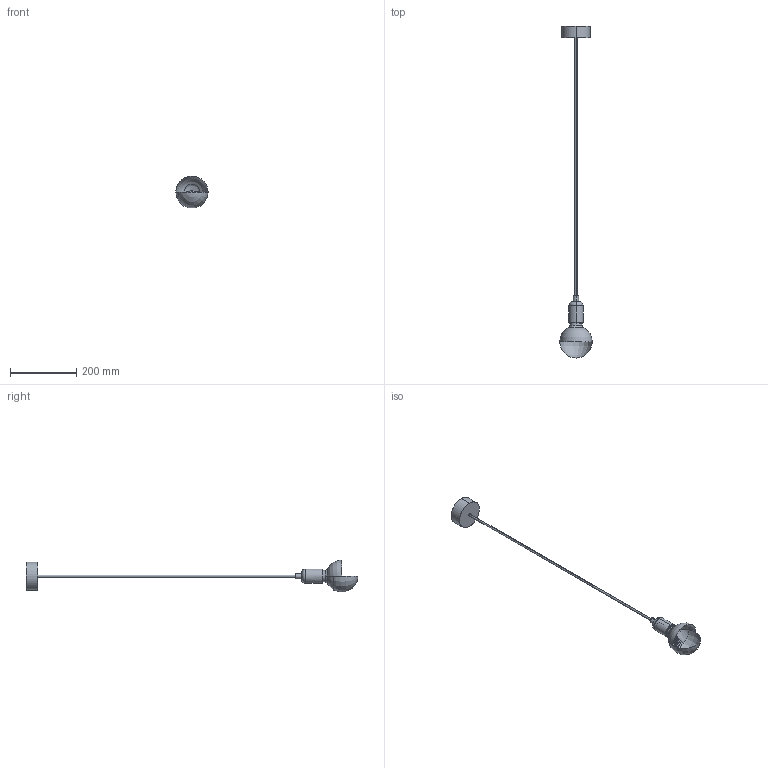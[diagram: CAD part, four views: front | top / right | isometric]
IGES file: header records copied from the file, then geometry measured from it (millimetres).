
Start section: SolidWorks IGES file using analytic representation for surfaces
Global section: file name: E:\3D lampy\Silicone\Silicone.IGS; native system: SolidWorks 2016; preprocessor: SolidWorks 2016; author: Asia; date: 170726.124725; units: millimetre
Bounding box: 97.48 x 1004.92 x 96.61 mm (x, y, z)
Surface area: 116390.8 mm2 (no closed solid volume)
Topology: 0 solids, 0 shells, 244 faces, 4446 edges, 4445 vertices
Faces by surface type: revolution 123, bspline 121
